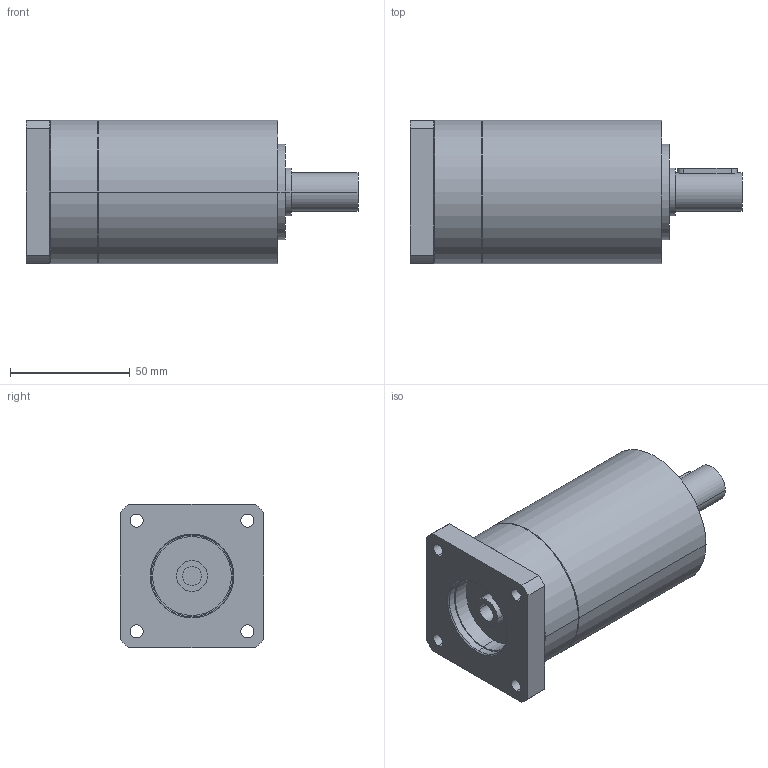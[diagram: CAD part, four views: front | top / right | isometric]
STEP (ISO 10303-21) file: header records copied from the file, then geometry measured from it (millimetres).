
FILE_DESCRIPTION(('CoCreate Modeling STEP Export'),'2;1');
FILE_NAME('GPR75_ig-9-12-16-20-24-30-36_16_B14_8_P26.stp','2014-08-25T16:06:16',(''),(''),'CoCreate Modeling STEP processor for AP214 (Solid Model)','CoCreate Modeling 16.00C 25-Feb-2009 (C) Parametric Technology GmbH','');
FILE_SCHEMA(('AUTOMOTIVE_DESIGN { 1 0 10303 214 1 1 1 1 }'));
Length unit declared in the file: millimetre
Products named in the file (2): GPR75_ig-9-12-16-20-24-30-36_16_B14_8_P26
Assembly tree (1 placements, depth 2):
  GPR75_ig-9-12-16-20-24-30-36_16_B14_8_P26
    GPR75_ig-9-12-16-20-24-30-36_16_B14_8_P26
Bounding box: 138.9 x 60 x 60 mm (x, y, z)
Volume: 303987.2 mm3; surface area: 32965.8 mm2
Topology: 1 solids, 1 shells, 88 faces, 229 edges, 155 vertices
Faces by surface type: cylinder 50, plane 30, cone 8
Entity records: 2322 total; most frequent: ORIENTED_EDGE 454, CARTESIAN_POINT 417, DIRECTION 320, EDGE_CURVE 227, VERTEX_POINT 155, AXIS2_PLACEMENT_3D 122, EDGE_LOOP 110, FACE_OUTER_BOUND 88
